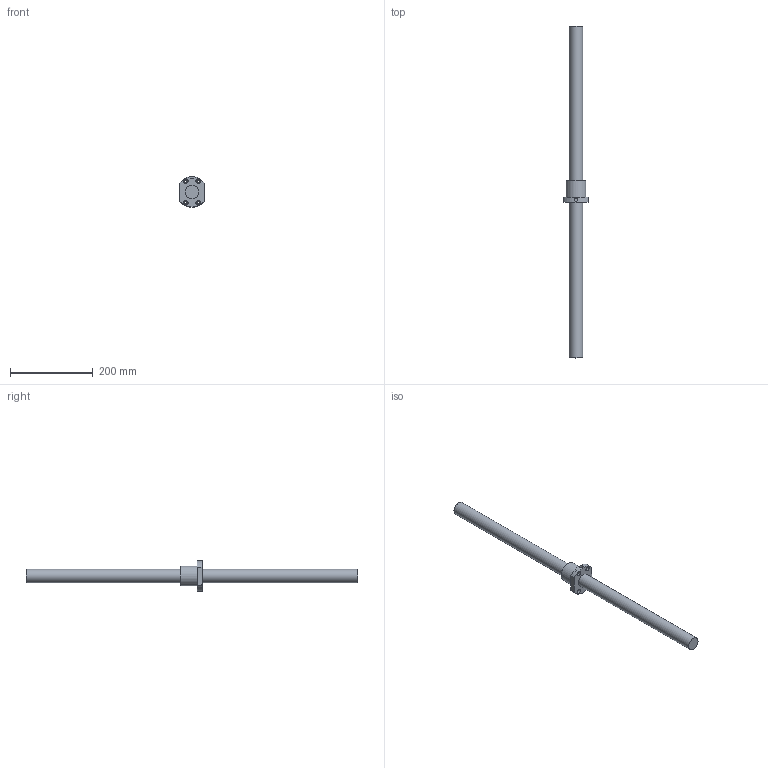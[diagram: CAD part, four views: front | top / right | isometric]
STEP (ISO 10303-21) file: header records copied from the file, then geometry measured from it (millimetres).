
FILE_DESCRIPTION(/* description */ (''),/* implementation_level */ '2;1');
FILE_NAME(/* name */ 'SFM03205-4-D-NoneNone-800.stp',/* time_stamp */ '2014-09-10T16:12:51+08:00',/* author */ (''),/* organization */ (''),/* preprocessor_version */ 'ST-DEVELOPER v11',/* originating_system */ 'SIEMENS UGS NX 6.0',/* authorisation */ '');
FILE_SCHEMA (('AUTOMOTIVE_DESIGN { 1 0 10303 214 1 1 1 1 }'));
Length unit declared in the file: millimetre
Products named in the file (1): SFM03205-4-D-NoneNone-800
Bounding box: 60 x 800 x 73.92 mm (x, y, z)
Volume: 717129.6 mm3; surface area: 103283.7 mm2
Topology: 2 solids, 2 shells, 29 faces, 58 edges, 39 vertices
Faces by surface type: cylinder 14, plane 12, torus 3
Full cylindrical faces by diameter (mm): 6.5 x4, 8 x1, 11 x4, 32 x2, 48 x1
Entity records: 843 total; most frequent: CARTESIAN_POINT 227, DIRECTION 128, ORIENTED_EDGE 86, AXIS2_PLACEMENT_3D 60, EDGE_LOOP 58, FACE_BOUND 50, EDGE_CURVE 43, VERTEX_POINT 37
